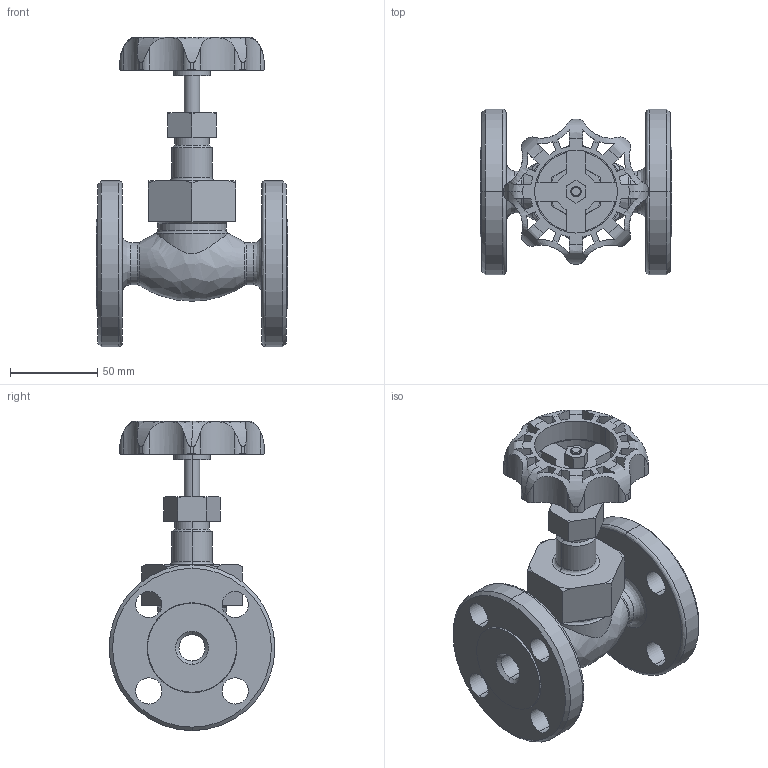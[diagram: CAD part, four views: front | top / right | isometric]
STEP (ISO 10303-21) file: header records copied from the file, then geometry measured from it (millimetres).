
FILE_DESCRIPTION( (''), '2;1');
FILE_NAME ('PC1027.9568.GLV-20F 15A_17318.stp','2025-07-28T11:39:50',(''),(''),'spGate 19.8.4 (****-****-****-****)','','');
FILE_SCHEMA (('AUTOMOTIVE_DESIGN'));
Length unit declared in the file: millimetre
Bounding box: 110 x 95 x 177.2 mm (x, y, z)
Volume: 361583 mm3; surface area: 84551.5 mm2
Topology: 1 solids, 1 shells, 246 faces, 700 edges, 454 vertices
Faces by surface type: cylinder 113, plane 75, bspline 58
Entity records: 15040 total; most frequent: CARTESIAN_POINT 3617, ORIENTED_EDGE 1400, DIRECTION 1140, COLOUR_RGB 947, PRESENTATION_STYLE_ASSIGNMENT 947, STYLED_ITEM 947, EDGE_CURVE 700, DRAUGHTING_PRE_DEFINED_CURVE_FONT 700
